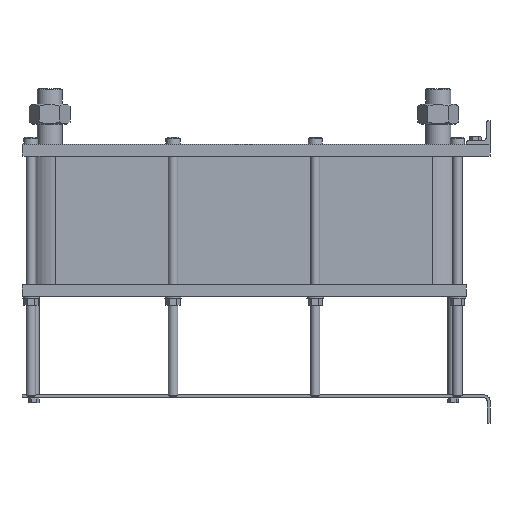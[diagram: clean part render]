
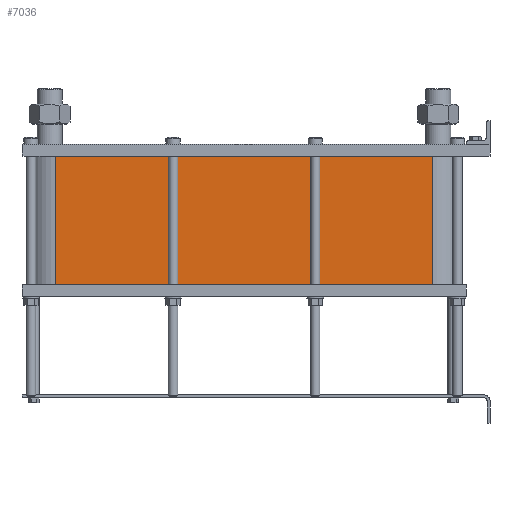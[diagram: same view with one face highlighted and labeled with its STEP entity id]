
A CAD part, left-side view. The second image highlights one B-rep face of the part: STEP entity #7036.
In plain terms, the highlighted planar face has unit normal (-1, 0, 0).
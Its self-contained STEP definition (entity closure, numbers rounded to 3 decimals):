
#999=LINE('',#15640,#1553);
#1031=LINE('',#15723,#1585);
#1032=LINE('',#15726,#1586);
#1033=LINE('',#15727,#1587);
#1553=VECTOR('',#9658,10.);
#1585=VECTOR('',#9736,10.);
#1586=VECTOR('',#9741,10.);
#1587=VECTOR('',#9742,10.);
#2117=FACE_OUTER_BOUND('',#2671,.T.);
#2671=EDGE_LOOP('',(#6246,#6247,#6248,#6249));
#3527=VERTEX_POINT('',#15634);
#3529=VERTEX_POINT('',#15638);
#3556=VERTEX_POINT('',#15720);
#3557=VERTEX_POINT('',#15722);
#4425=EDGE_CURVE('',#3529,#3527,#999,.T.);
#4466=EDGE_CURVE('',#3557,#3556,#1031,.T.);
#4468=EDGE_CURVE('',#3527,#3556,#1032,.T.);
#4469=EDGE_CURVE('',#3557,#3529,#1033,.T.);
#6246=ORIENTED_EDGE('',*,*,#4468,.F.);
#6247=ORIENTED_EDGE('',*,*,#4425,.F.);
#6248=ORIENTED_EDGE('',*,*,#4469,.F.);
#6249=ORIENTED_EDGE('',*,*,#4466,.T.);
#6608=PLANE('',#7812);
#7036=ADVANCED_FACE('',(#2117),#6608,.T.);
#7812=AXIS2_PLACEMENT_3D('',#15725,#9739,#9740);
#9658=DIRECTION('',(0.,0.,-1.));
#9736=DIRECTION('',(0.,0.,-1.));
#9739=DIRECTION('center_axis',(-1.,0.,0.));
#9740=DIRECTION('ref_axis',(0.,1.,0.));
#9741=DIRECTION('',(0.,1.,0.));
#9742=DIRECTION('',(0.,-1.,0.));
#15634=CARTESIAN_POINT('',(-72.,97.5,-217.));
#15638=CARTESIAN_POINT('',(-72.,97.5,0.));
#15640=CARTESIAN_POINT('',(-72.,97.5,0.));
#15720=CARTESIAN_POINT('',(-72.,733.5,-217.));
#15722=CARTESIAN_POINT('',(-72.,733.5,0.));
#15723=CARTESIAN_POINT('',(-72.,733.5,0.));
#15725=CARTESIAN_POINT('Origin',(-72.,97.5,0.));
#15726=CARTESIAN_POINT('',(-72.,256.5,-217.));
#15727=CARTESIAN_POINT('',(-72.,733.5,0.));
